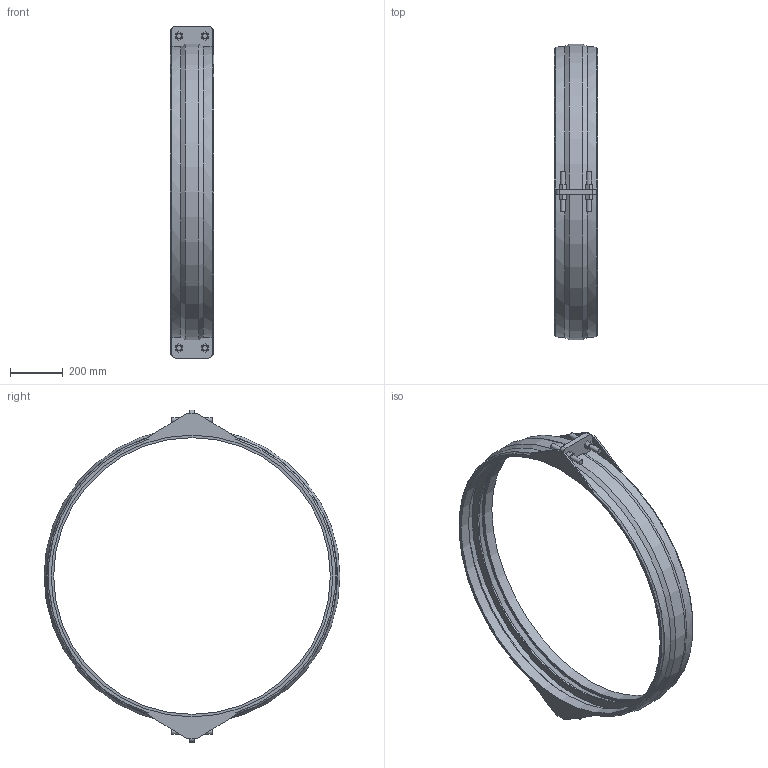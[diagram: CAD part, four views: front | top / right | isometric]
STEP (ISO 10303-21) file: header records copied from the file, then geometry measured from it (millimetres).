
FILE_DESCRIPTION(/* description */ ('VIC SS RESTRAINED COUPLING STYLE 234S (FLEX) (BRS)','CAx-IF Rec.Pracs.---Representation and Presentation of Product Manufacturing Information (PMI)---4.0---2014-10-13'),/* implementation_level */ '2;1');
FILE_NAME(/* name */ 'C:\Users\kkamble\AppData\Roaming\Autodesk\ApplicationPlugins\Back Up\Victaulic_VBSP_Coupling Flexible Restrained_Style 234S (BRS)\Victaulic_VBSP_Coupling Flexible Restrained_Style 234S (BRS)_100psi_42 (1050).stp',/* time_stamp */ '2020-09-22T18:41:52+05:00',/* author */ ('Vjadhav'),/* organization */ ('Victaulic'),/* preprocessor_version */ 'ST-DEVELOPER v17.2',/* originating_system */ 'Autodesk Inventor 2019',/* authorisation */ '');
FILE_SCHEMA (('AP242_MANAGED_MODEL_BASED_3D_ENGINEERING_MIM_LF { 1 0 10303 442 1 1 4 }'));
Length unit declared in the file: inch
Products named in the file (1): Style_234S_Type_2_100psi-42.0
Bounding box: 165.1 x 1120.64 x 1257.3 mm (x, y, z)
Volume: 8106328 mm3; surface area: 1714404.4 mm2
Topology: 1 solids, 1 shells, 155 faces, 393 edges, 260 vertices
Faces by surface type: plane 104, cylinder 39, torus 6, cone 6
Full cylindrical faces by diameter (mm): 19.05 x8, 1047.75 x1, 1066.8 x2, 1107.943 x2
Entity records: 5090 total; most frequent: CARTESIAN_POINT 978, DIRECTION 825, ORIENTED_EDGE 786, EDGE_CURVE 393, AXIS2_PLACEMENT_3D 279, LINE 267, VECTOR 267, VERTEX_POINT 260
